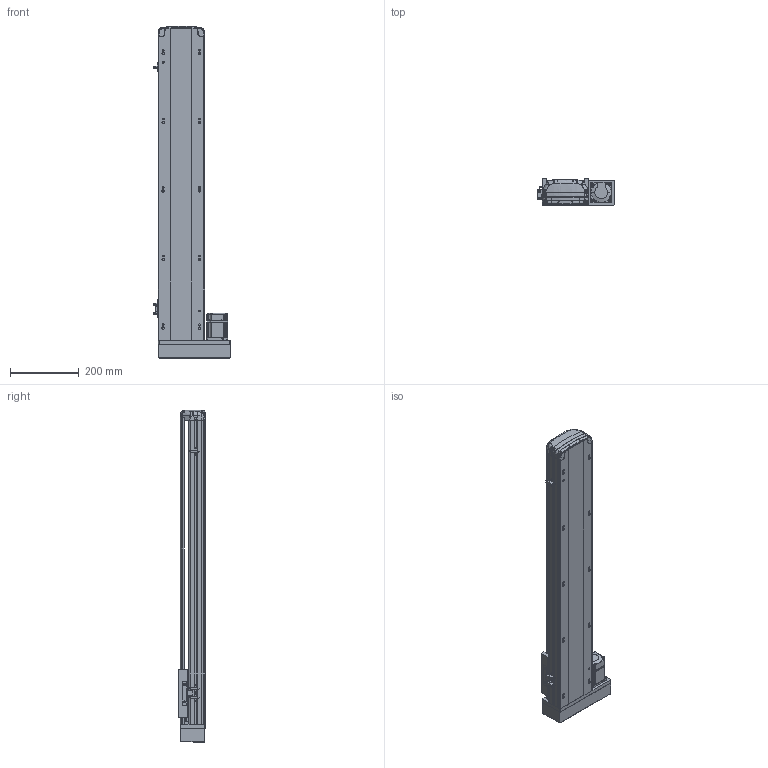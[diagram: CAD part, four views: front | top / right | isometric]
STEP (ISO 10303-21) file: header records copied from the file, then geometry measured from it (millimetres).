
FILE_DESCRIPTION (( 'STEP AP214' ), '1' );
FILE_NAME ('RTH14-XX-700-R-M20-C4.STEP', '2025-10-24T09:55:35', ( 'Microsoft' ), ( 'Microsoft' ), 'SwSTEP 2.0', 'SolidWorks 2018', '' );
FILE_SCHEMA (( 'AUTOMOTIVE_DESIGN' ));
Length unit declared in the file: millimetre
Products named in the file (10): N_RTH14-R-004-SFSR16賑釱^RTH14-XX-XX-R-M20-C4; N_RTH14-GY-001P^RTH14-XX-XX-R-M20-C4; RTH14-XX-700-R-M20-C4; N_MSMD022P1AA_200W^RTH14-XX-XX-R-M20-C4; N_RTH14-M-011P菁釱^RTH14-XX-XX-R-M20-C4; N_OMRON EE-SX672 传感器^RTH14-XX-XX-R-M20-C4; N_RTH13-L-012感应片（外置）^RTH14-XX-XX-R-M20-C4; N_RTH13-L-008-P20 萇儂啣酘蛌殏^RTH14-XX-XX-R-M20-C4; N_RTH14-M-007P奻裔^RTH14-XX-XX-R-M20-C4; N_RTH13-L-018 裔赽^RTH14-XX-XX-R-M20-C4
Assembly tree (11 placements, depth 2):
  RTH14-XX-700-R-M20-C4
    N_RTH14-M-011P菁釱^RTH14-XX-XX-R-M20-C4
    N_RTH14-M-007P奻裔^RTH14-XX-XX-R-M20-C4
    N_MSMD022P1AA_200W^RTH14-XX-XX-R-M20-C4
    N_RTH13-L-008-P20 萇儂啣酘蛌殏^RTH14-XX-XX-R-M20-C4
    N_RTH13-L-018 裔赽^RTH14-XX-XX-R-M20-C4
    N_RTH13-L-012感应片（外置）^RTH14-XX-XX-R-M20-C4
    N_OMRON EE-SX672 传感器^RTH14-XX-XX-R-M20-C4  x3
    N_RTH14-R-004-SFSR16賑釱^RTH14-XX-XX-R-M20-C4
    N_RTH14-GY-001P^RTH14-XX-XX-R-M20-C4
Bounding box: 224 x 78.03 x 967.73 mm (x, y, z)
Volume: 4303629.2 mm3; surface area: 1011884.3 mm2
Topology: 10 solids, 12 shells, 1869 faces, 5230 edges, 3429 vertices
Faces by surface type: plane 989, cylinder 485, bspline 346, cone 45, torus 4
Entity records: 57129 total; most frequent: CARTESIAN_POINT 23093, ORIENTED_EDGE 7517, DIRECTION 6020, EDGE_CURVE 3764, VERTEX_POINT 2465, LINE 2154, VECTOR 2154, AXIS2_PLACEMENT_3D 1933
